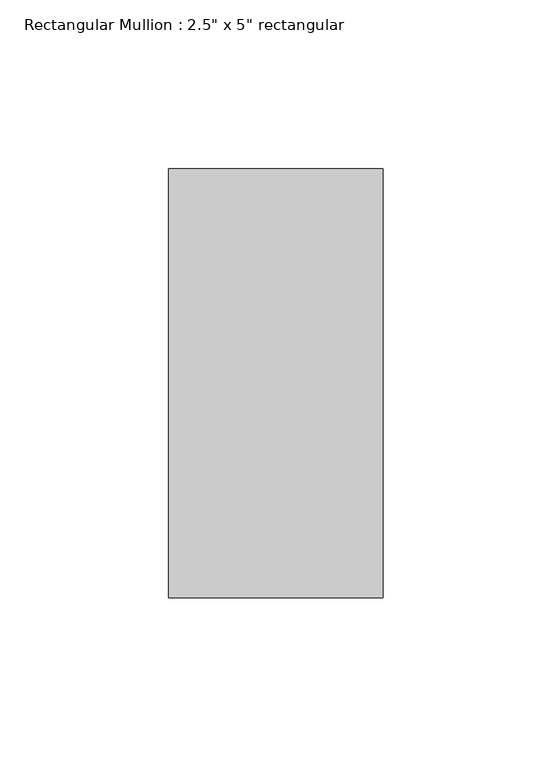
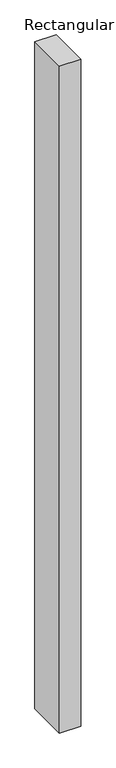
"""IFC4 building model written with IfcOpenShell, lengths in millimetres: member geometry."""

import ifcopenshell
import ifcopenshell.guid

model = None  # the IFC model being written
_history = None  # IfcOwnerHistory: only IFC2X3 demands one
_inside = {}  # id of a spatial element -> (the spatial element, [elements in it])
_under = {}  # id of a project, library or spatial element -> (it, [spatial elements below it])
_declared = {}  # id of a project -> (the project, [libraries it declares])
_typed = {}  # id of a type object -> (the type object, [elements of that type])
_made_of = {}  # id of a material, layer set ... -> (it, [elements and type objects made of it])


def new_model(schema):
    """Start an empty IFC model of exactly this schema.

    Asked for "IFC4X3", IfcOpenShell would pick the latest addendum, in which some entities
    have other attributes; the version numbers below select the first issue.
    IFC2X3 requires an IfcOwnerHistory on every rooted entity: one is made here for all.
    """
    global model, _history
    if schema == "IFC4X3":
        model = ifcopenshell.file(schema_version=(4, 3, 0, 0))
    else:
        model = ifcopenshell.file(schema=schema)
    _inside.clear()
    _under.clear()
    _declared.clear()
    _typed.clear()
    _made_of.clear()
    _history = None
    if model.schema == "IFC2X3":
        org = make("IfcOrganization", Name="unknown")
        user = make(
            "IfcPersonAndOrganization",
            ThePerson=make("IfcPerson", FamilyName="unknown"),
            TheOrganization=org,
        )
        app = make(
            "IfcApplication",
            ApplicationDeveloper=org,
            Version="unknown",
            ApplicationFullName="unknown",
            ApplicationIdentifier="unknown",
        )
        _history = make(
            "IfcOwnerHistory",
            OwningUser=user,
            OwningApplication=app,
            ChangeAction="ADDED",
            CreationDate=0,
        )
    return model


def make(cls, **values):
    """One entity of the class cls with the attributes given. An attribute that is None is left unset."""
    return model.create_entity(
        cls, **{name: value for name, value in values.items() if value is not None}
    )


def rooted(cls, **values):
    """An entity with a GlobalId (a new one), such as an element, a storey or a relation."""
    return make(cls, GlobalId=ifcopenshell.guid.new(), OwnerHistory=_history, **values)


def si_unit(unit_type, name, prefix=None):
    """IfcSIUnit, for example si_unit("LENGTHUNIT", "METRE", prefix="MILLI")."""
    return make("IfcSIUnit", UnitType=unit_type, Prefix=prefix, Name=name)


def assignment(units):
    """IfcUnitAssignment: the units of a project."""
    return None if units is None else make("IfcUnitAssignment", Units=units)


def point(xyz):
    """IfcCartesianPoint."""
    return None if xyz is None else make("IfcCartesianPoint", Coordinates=xyz)


def direction(xyz):
    """IfcDirection."""
    return None if xyz is None else make("IfcDirection", DirectionRatios=xyz)


def frame(location, z_axis=None, x_axis=None):
    """IfcAxis2Placement3D, a coordinate frame: its origin and axes. An axis left out is left unset."""
    return make(
        "IfcAxis2Placement3D",
        Location=point(location),
        Axis=direction(z_axis),
        RefDirection=direction(x_axis),
    )


def origin():
    """The frame at (0, 0, 0) with its axes left unset."""
    return frame((0.0, 0.0, 0.0))


def place(relative_to, where):
    """IfcLocalPlacement: puts the frame where relative to a parent placement (None: the world)."""
    return make(
        "IfcLocalPlacement", PlacementRelTo=relative_to, RelativePlacement=where
    )


def context(
    kind, dimensions, precision=None, world=None, true_north=None, identifier=None
):
    """IfcGeometricRepresentationContext, for example the 3D "Model" context."""
    return make(
        "IfcGeometricRepresentationContext",
        ContextIdentifier=identifier,
        ContextType=kind,
        CoordinateSpaceDimension=dimensions,
        Precision=precision,
        WorldCoordinateSystem=world,
        TrueNorth=true_north,
    )


def project(units=None, contexts=None):
    """IfcProject with its units and contexts."""
    return rooted(
        "IfcProject",
        Name="project",
        RepresentationContexts=contexts,
        UnitsInContext=assignment(units),
    )


def spatial(cls, under=None, at=None, **own):
    """A site, building, storey or space (cls), placed at a placement, below another one or the project."""
    s = rooted(cls, ObjectPlacement=at, **own)
    if under is not None:
        _under.setdefault(under.id(), (under, []))[1].append(s)
    return s


def polyline(points):
    """IfcPolyline through the points."""
    return make("IfcPolyline", Points=[point(p) for p in points])


def outline(outer, holes=None, kind="AREA"):
    """IfcArbitraryClosedProfileDef: a profile drawn as a closed curve; with holes, ...WithVoids."""
    if holes is None:
        return make("IfcArbitraryClosedProfileDef", ProfileType=kind, OuterCurve=outer)
    return make(
        "IfcArbitraryProfileDefWithVoids",
        ProfileType=kind,
        OuterCurve=outer,
        InnerCurves=holes,
    )


def extrude(swept, where, along, depth):
    """IfcExtrudedAreaSolid: the profile swept, set in the frame where, extruded along a direction by depth."""
    return make(
        "IfcExtrudedAreaSolid",
        SweptArea=swept,
        Position=where,
        ExtrudedDirection=direction(along),
        Depth=depth,
    )


def shape(context_of_items, identifier, shape_type, items):
    """IfcShapeRepresentation: the items that make up one representation, for example the "Body"."""
    return make(
        "IfcShapeRepresentation",
        ContextOfItems=context_of_items,
        RepresentationIdentifier=identifier,
        RepresentationType=shape_type,
        Items=items,
    )


def source(mapping_origin, context_of_items, identifier, shape_type, items):
    """IfcRepresentationMap: a shape defined once, which mapped items show again and again."""
    return make(
        "IfcRepresentationMap",
        MappingOrigin=mapping_origin,
        MappedRepresentation=shape(context_of_items, identifier, shape_type, items),
    )


def transform(
    local_origin,
    x_axis=None,
    y_axis=None,
    z_axis=None,
    scale=None,
    scale2=None,
    scale3=None,
    uniform=True,
):
    """IfcCartesianTransformationOperator3D, or its non-uniform kind. x_axis, y_axis, z_axis: its Axis1, 2, 3."""
    if uniform:
        return make(
            "IfcCartesianTransformationOperator3D",
            Axis1=direction(x_axis),
            Axis2=direction(y_axis),
            LocalOrigin=point(local_origin),
            Scale=scale,
            Axis3=direction(z_axis),
        )
    return make(
        "IfcCartesianTransformationOperator3DnonUniform",
        Axis1=direction(x_axis),
        Axis2=direction(y_axis),
        LocalOrigin=point(local_origin),
        Scale=scale,
        Axis3=direction(z_axis),
        Scale2=scale2,
        Scale3=scale3,
    )


def mapped(mapping_source, mapping_target):
    """IfcMappedItem: shows the shape of a source again, moved by a transform."""
    return make(
        "IfcMappedItem", MappingSource=mapping_source, MappingTarget=mapping_target
    )


def made_of(thing, what):
    """Note that an element or type object is made of a material, layer set ...; save() writes the relation."""
    if what is not None:
        _made_of.setdefault(what.id(), (what, []))[1].append(thing)
    return thing


def element(
    cls,
    number,
    at=None,
    inside=None,
    cuts=None,
    type_object=None,
    material=None,
    context=None,
    identifier="Body",
    shape_type=None,
    held_by="IfcProductDefinitionShape",
    body=None,
    shapes=None,
    **own,
):
    """One element of the class cls, such as IfcWall. Its Tag is "e" and its number.

    at: its placement. inside: the storey or other place that contains it. cuts: it is an
    opening in that element (IfcRelVoidsElement). A single representation is given by context,
    identifier, shape_type and body (its items); several are given by shapes. held_by: the class
    of the entity that holds the representations. save() writes the other relations.
    """
    e = rooted(cls, Tag="e%d" % number, ObjectPlacement=at, **own)
    if body is not None:
        shapes = [shape(context, identifier, shape_type, body)]
    if shapes is not None:
        e.Representation = make(held_by, Representations=shapes)
    if inside is not None:
        _inside.setdefault(inside.id(), (inside, []))[1].append(e)
    if cuts is not None:
        rooted(
            "IfcRelVoidsElement", RelatingBuildingElement=cuts, RelatedOpeningElement=e
        )
    if type_object is not None:
        _typed.setdefault(type_object.id(), (type_object, []))[1].append(e)
    return made_of(e, material)


def aggregate(whole, parts):
    """IfcRelAggregates: a whole, such as a stair, and the parts it consists of."""
    return rooted("IfcRelAggregates", RelatingObject=whole, RelatedObjects=parts)


def save(model, path):
    """Write the relations noted so far, then the file.

    IfcRelAggregates (storeys below a building ...), IfcRelContainedInSpatialStructure (elements
    in a storey), IfcRelDefinesByType, IfcRelAssociatesMaterial and IfcRelDeclares: one each for
    every whole, place, type object, material and project.
    """
    for whole, parts in _under.values():
        aggregate(whole, parts)
    for where, things in _inside.values():
        rooted(
            "IfcRelContainedInSpatialStructure",
            RelatedElements=things,
            RelatingStructure=where,
        )
    for kind, things in _typed.values():
        rooted("IfcRelDefinesByType", RelatedObjects=things, RelatingType=kind)
    for what, things in _made_of.values():
        rooted("IfcRelAssociatesMaterial", RelatedObjects=things, RelatingMaterial=what)
    for by, libraries in _declared.values():
        rooted("IfcRelDeclares", RelatingContext=by, RelatedDefinitions=libraries)
    model.write(path)


def member_8357d0f7(model_context):
    return source(origin(), model_context, "Body", "SweptSolid", [
        extrude(outline(polyline([(31.75, 63.5), (31.75, -63.5), (-31.75, -63.5), (-31.75, 63.5), (31.75, 63.5)])), frame((0.0, 0.0, -2103.4979827), z_axis=(0.0, 0.0, 1.0), x_axis=(1.0, 0.0, 0.0)), (0.0, 0.0, 1.0), 2103.4979827),
    ])


if __name__ == "__main__":
    model = new_model("IFC4")
    model_context = context("Model", 3, world=origin())
    ifc_project = project(units=[si_unit("LENGTHUNIT", "METRE", prefix="MILLI")], contexts=[model_context])
    site = spatial("IfcSite", under=ifc_project)
    building = spatial("IfcBuilding", under=site)
    placement = place(None, origin())
    member_shape = member_8357d0f7(model_context)
    element("IfcMember", 1, ObjectType="Rectangular Mullion : 2.5\" x 5\" rectangular", at=placement, inside=building, context=model_context, shape_type="MappedRepresentation", body=[
        mapped(member_shape, transform((0.0, 0.0, 0.0), x_axis=(1.0, 0.0, 0.0), y_axis=(0.0, 1.0, 0.0), z_axis=(0.0, 0.0, 1.0))),
    ])
    save(model, "model.ifc")
